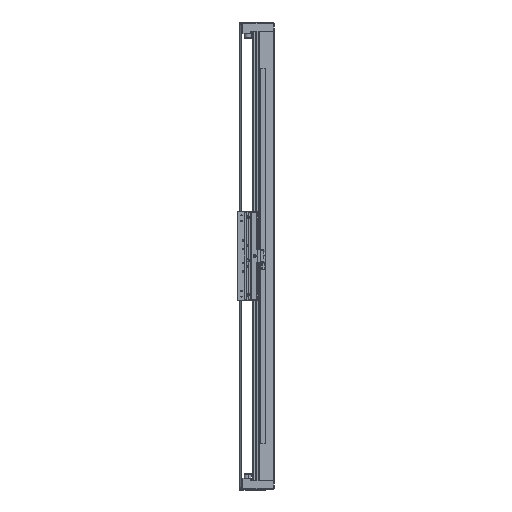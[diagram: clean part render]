
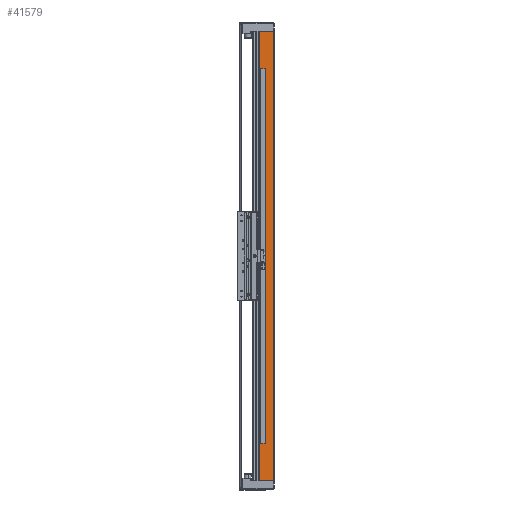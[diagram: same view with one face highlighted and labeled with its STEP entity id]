
A CAD part, left-side view. The second image highlights one B-rep face of the part: STEP entity #41579.
In plain terms, the highlighted planar face has unit normal (-1, 0, 0).
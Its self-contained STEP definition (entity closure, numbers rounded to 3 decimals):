
#41 = ORIENTED_EDGE ( 'NONE', *, *, #70838, .F. ) ;
#3291 = PLANE ( 'NONE',  #50155 ) ;
#6121 = CARTESIAN_POINT ( 'NONE',  ( -57.5, 30.05, 480. ) ) ;
#10922 = DIRECTION ( 'NONE',  ( 0., 1., 0. ) ) ;
#12780 = LINE ( 'NONE', #82865, #14994 ) ;
#14994 = VECTOR ( 'NONE', #75245, 1000. ) ;
#16408 = VECTOR ( 'NONE', #27137, 1000. ) ;
#19285 = CARTESIAN_POINT ( 'NONE',  ( -57.5, 30.05, 480. ) ) ;
#21371 = DIRECTION ( 'NONE',  ( 0., 0., -1. ) ) ;
#21908 = CARTESIAN_POINT ( 'NONE',  ( -57.5, 30.05, 480. ) ) ;
#27137 = DIRECTION ( 'NONE',  ( 0., -1., 0. ) ) ;
#27177 = CARTESIAN_POINT ( 'NONE',  ( -57.5, 29.05, 480. ) ) ;
#35382 = VERTEX_POINT ( 'NONE', #93613 ) ;
#39590 = EDGE_CURVE ( 'NONE', #71252, #82103, #77242, .T. ) ;
#41579 = ADVANCED_FACE ( 'NONE', ( #41923 ), #3291, .F. ) ;
#41923 = FACE_OUTER_BOUND ( 'NONE', #55702, .T. ) ;
#50155 = AXIS2_PLACEMENT_3D ( 'NONE', #27177, #96260, #10922 ) ;
#55702 = EDGE_LOOP ( 'NONE', ( #68695, #41, #59346, #86248 ) ) ;
#59346 = ORIENTED_EDGE ( 'NONE', *, *, #39590, .F. ) ;
#59962 = LINE ( 'NONE', #6121, #72315 ) ;
#61012 = DIRECTION ( 'NONE',  ( 0., -1., 0. ) ) ;
#64822 = EDGE_CURVE ( 'NONE', #71252, #35382, #59962, .T. ) ;
#66712 = VERTEX_POINT ( 'NONE', #68888 ) ;
#68695 = ORIENTED_EDGE ( 'NONE', *, *, #80480, .T. ) ;
#68888 = CARTESIAN_POINT ( 'NONE',  ( -57.5, 0.5, -480. ) ) ;
#70838 = EDGE_CURVE ( 'NONE', #82103, #66712, #12780, .T. ) ;
#71252 = VERTEX_POINT ( 'NONE', #19285 ) ;
#72315 = VECTOR ( 'NONE', #21371, 1000. ) ;
#73869 = CARTESIAN_POINT ( 'NONE',  ( -57.5, 29.05, -480. ) ) ;
#75245 = DIRECTION ( 'NONE',  ( 0., 0., -1. ) ) ;
#75449 = CARTESIAN_POINT ( 'NONE',  ( -57.5, 0.5, 480. ) ) ;
#77242 = LINE ( 'NONE', #21908, #91303 ) ;
#80480 = EDGE_CURVE ( 'NONE', #35382, #66712, #96737, .T. ) ;
#82103 = VERTEX_POINT ( 'NONE', #75449 ) ;
#82865 = CARTESIAN_POINT ( 'NONE',  ( -57.5, 0.5, 480. ) ) ;
#86248 = ORIENTED_EDGE ( 'NONE', *, *, #64822, .T. ) ;
#91303 = VECTOR ( 'NONE', #61012, 1000. ) ;
#93613 = CARTESIAN_POINT ( 'NONE',  ( -57.5, 30.05, -480. ) ) ;
#96260 = DIRECTION ( 'NONE',  ( 1., 0., 0. ) ) ;
#96737 = LINE ( 'NONE', #73869, #16408 ) ;
